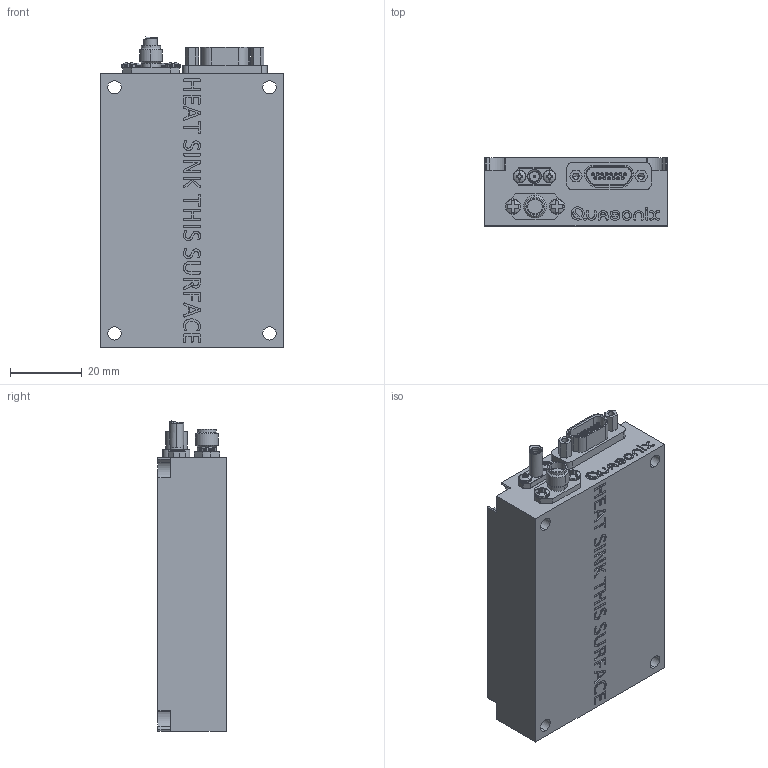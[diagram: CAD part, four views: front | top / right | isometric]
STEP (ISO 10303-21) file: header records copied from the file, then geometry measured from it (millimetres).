
FILE_DESCRIPTION (( 'STEP AP203' ), '1' );
FILE_NAME ('QS-TX-04ARXXX.STEP', '2024-02-26T12:46:36', ( '' ), ( '' ), 'SwSTEP 2.0', 'SolidWorks 2021', '' );
FILE_SCHEMA (( 'CONFIG_CONTROL_DESIGN' ));
Products named in the file (1): QS-TX-04ARXXX
Bounding box: 50.8 x 19.05 x 86.41 mm (x, y, z)
Volume: 73452.6 mm3; surface area: 15766.2 mm2
Topology: 10 solids, 10 shells, 1135 faces, 2964 edges, 1920 vertices
Faces by surface type: cylinder 374, plane 374, bspline 264, cone 71, torus 28, sphere 24
Entity records: 46596 total; most frequent: CARTESIAN_POINT 21073, ORIENTED_EDGE 5892, DIRECTION 4389, EDGE_CURVE 2946, VERTEX_POINT 1920, AXIS2_PLACEMENT_3D 1486, LINE 1417, VECTOR 1417
